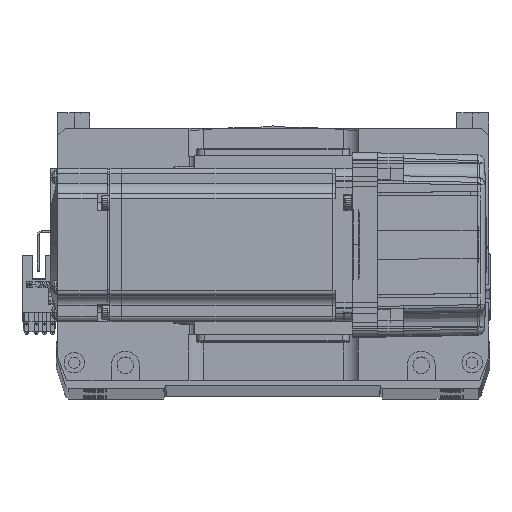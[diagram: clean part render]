
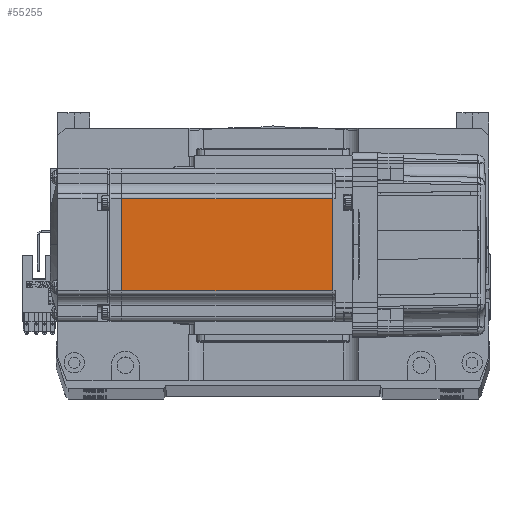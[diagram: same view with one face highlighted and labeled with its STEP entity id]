
A CAD part, top view. The second image highlights one B-rep face of the part: STEP entity #55255.
In plain terms, the highlighted planar face has unit normal (0, 0, 1).
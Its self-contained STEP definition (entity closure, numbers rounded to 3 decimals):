
#193 = DIRECTION ( 'NONE',  ( -1., 0., 0. ) ) ;
#493 = CARTESIAN_POINT ( 'NONE',  ( -90.45, -18., 30. ) ) ;
#496 = EDGE_CURVE ( 'NONE', #60365, #28017, #41537, .T. ) ;
#3904 = ORIENTED_EDGE ( 'NONE', *, *, #26242, .F. ) ;
#5189 = EDGE_CURVE ( 'NONE', #15907, #60365, #49086, .T. ) ;
#5866 = CARTESIAN_POINT ( 'NONE',  ( -7.75, 0., 30. ) ) ;
#7160 = ORIENTED_EDGE ( 'NONE', *, *, #5189, .T. ) ;
#7849 = EDGE_LOOP ( 'NONE', ( #46176, #7160, #13638, #3904 ) ) ;
#9001 = CARTESIAN_POINT ( 'NONE',  ( -90.45, 0., 30. ) ) ;
#13638 = ORIENTED_EDGE ( 'NONE', *, *, #496, .T. ) ;
#15907 = VERTEX_POINT ( 'NONE', #50046 ) ;
#19194 = DIRECTION ( 'NONE',  ( 0., -1., 0. ) ) ;
#21238 = FACE_OUTER_BOUND ( 'NONE', #7849, .T. ) ;
#21678 = CARTESIAN_POINT ( 'NONE',  ( -6.5, 18., 30. ) ) ;
#26242 = EDGE_CURVE ( 'NONE', #39240, #28017, #55042, .T. ) ;
#28017 = VERTEX_POINT ( 'NONE', #493 ) ;
#28762 = CARTESIAN_POINT ( 'NONE',  ( -6.5, -25., 30. ) ) ;
#30806 = VECTOR ( 'NONE', #58421, 1000. ) ;
#33409 = DIRECTION ( 'NONE',  ( -1., 0., 0. ) ) ;
#38424 = VECTOR ( 'NONE', #33409, 1000. ) ;
#38709 = DIRECTION ( 'NONE',  ( 0., 0., 1. ) ) ;
#39066 = VECTOR ( 'NONE', #193, 1000. ) ;
#39189 = PLANE ( 'NONE',  #58551 ) ;
#39240 = VERTEX_POINT ( 'NONE', #57366 ) ;
#41537 = LINE ( 'NONE', #9001, #43196 ) ;
#43196 = VECTOR ( 'NONE', #19194, 1000. ) ;
#44514 = CARTESIAN_POINT ( 'NONE',  ( -90.45, 18., 30. ) ) ;
#46176 = ORIENTED_EDGE ( 'NONE', *, *, #60284, .F. ) ;
#46663 = LINE ( 'NONE', #5866, #30806 ) ;
#49086 = LINE ( 'NONE', #21678, #39066 ) ;
#49404 = CARTESIAN_POINT ( 'NONE',  ( -6.5, -18., 30. ) ) ;
#50046 = CARTESIAN_POINT ( 'NONE',  ( -7.75, 18., 30. ) ) ;
#50114 = DIRECTION ( 'NONE',  ( 1., 0., 0. ) ) ;
#55042 = LINE ( 'NONE', #49404, #38424 ) ;
#55255 = ADVANCED_FACE ( 'NONE', ( #21238 ), #39189, .T. ) ;
#57366 = CARTESIAN_POINT ( 'NONE',  ( -7.75, -18., 30. ) ) ;
#58421 = DIRECTION ( 'NONE',  ( 0., -1., 0. ) ) ;
#58551 = AXIS2_PLACEMENT_3D ( 'NONE', #28762, #38709, #50114 ) ;
#60284 = EDGE_CURVE ( 'NONE', #15907, #39240, #46663, .T. ) ;
#60365 = VERTEX_POINT ( 'NONE', #44514 ) ;
